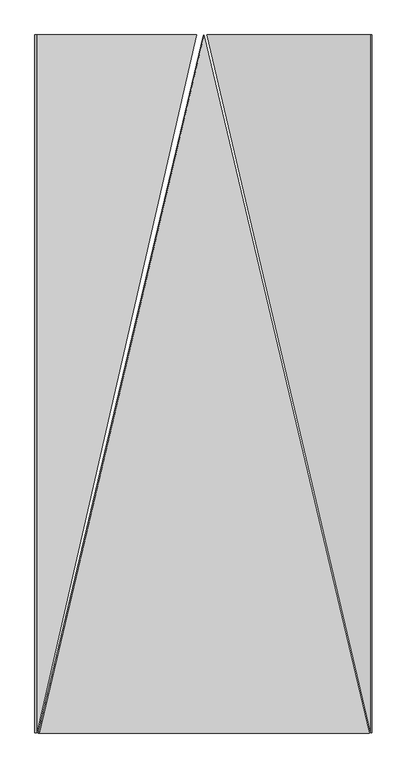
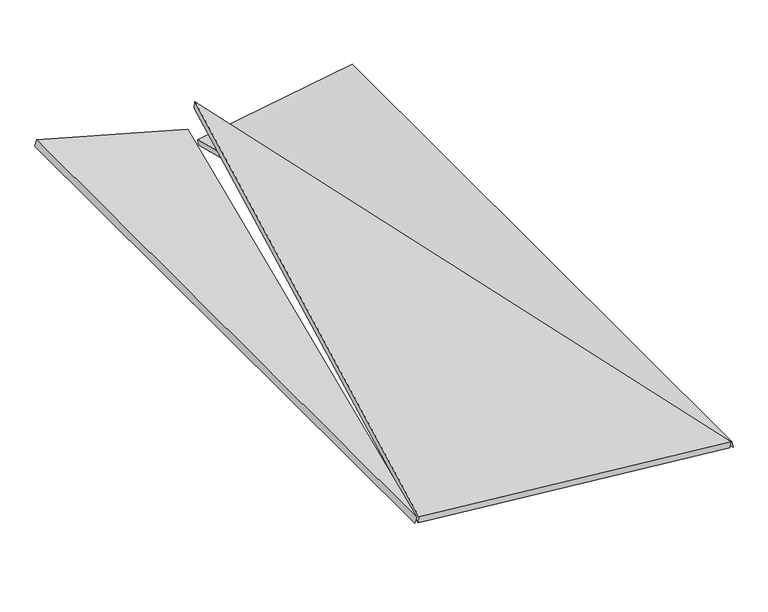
"""IFC4 building model written with IfcOpenShell, lengths in millimetres: proxy geometry, panel sufitowy 6 : panel sufitowy 6."""

from ifc_helpers import new_model, si_unit, frame, origin, place, context, project, spatial, polyline, outline, extrude, source, transform, mapped, element, save


def generic_models_8c97f6f7(model_context):
    return source(origin(), model_context, "Body", "SweptSolid", [
        extrude(outline(polyline([(-900.9098917, 0.0), (1006.1909889, 962.7191946), (1235.4098448, 0.0), (-900.9098917, 0.0)])), frame((547.1538959, 1457.4151922, 1131.8853671), z_axis=(0.09584575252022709, 0.0, 0.9953961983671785), x_axis=(-0.2305541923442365, -0.9728062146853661, 0.022199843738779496)), (0.0, 0.0, 1.0), 20.0),
        extrude(outline(polyline([(-127.5, 0.0), (-127.5, -2079.0), (-622.5, 0.0), (-127.5, 0.0)])), frame((1383.0106901, 2335.0, 1084.5535657), z_axis=(-0.1650476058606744, 0.0, 0.986285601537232), x_axis=(0.986285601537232, 0.0, 0.1650476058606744)), (0.0, 0.0, 1.0), 20.0),
        extrude(outline(polyline([(-127.5, 0.0), (-622.5000001, 0.0), (-127.5, 2079.0), (-127.5, 0.0)])), frame((129.0462327, 2335.0, 1194.387099), z_axis=(0.2672383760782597, 0.0, 0.9636304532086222), x_axis=(-0.9636304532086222, 0.0, 0.2672383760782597)), (0.0, 0.0, 1.0), 20.0),
    ])


if __name__ == "__main__":
    model = new_model("IFC4")
    model_context = context("Model", 3, world=origin())
    ifc_project = project(units=[si_unit("LENGTHUNIT", "METRE", prefix="MILLI")], contexts=[model_context])
    site = spatial("IfcSite", under=ifc_project)
    building = spatial("IfcBuilding", under=site)
    placement = place(None, origin())
    generic_models_shape = generic_models_8c97f6f7(model_context)
    element("IfcBuildingElementProxy", 1, Name="panel sufitowy 6 : panel sufitowy 6", ObjectType="panel sufitowy 6 : panel sufitowy 6", at=placement, inside=building, context=model_context, shape_type="MappedRepresentation", body=[
        mapped(generic_models_shape, transform((0.0, 0.0, 0.0), x_axis=(1.0, 0.0, 0.0), y_axis=(0.0, 1.0, 0.0), z_axis=(0.0, 0.0, 1.0))),
    ])
    save(model, "model.ifc")
